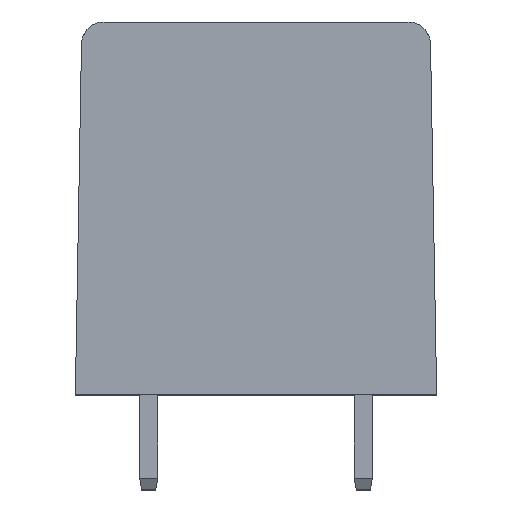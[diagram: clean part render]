
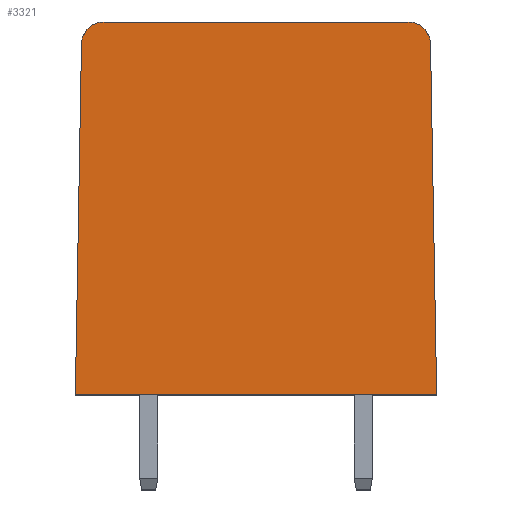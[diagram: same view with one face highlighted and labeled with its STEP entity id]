
A CAD part, top view. The second image highlights one B-rep face of the part: STEP entity #3321.
In plain terms, the highlighted planar face has unit normal (0, 0, 1).
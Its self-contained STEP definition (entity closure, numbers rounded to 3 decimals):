
#459 = FACE_OUTER_BOUND ( 'NONE', #3322, .T. ) ;
#500 = DIRECTION ( 'NONE',  ( 0.017, 1., 0. ) ) ;
#501 = VECTOR ( 'NONE', #500, 1000. ) ;
#502 = CARTESIAN_POINT ( 'NONE',  ( -7.729, 15.517, -9.52 ) ) ;
#503 = LINE ( 'NONE', #502, #501 ) ;
#504 = CARTESIAN_POINT ( 'NONE',  ( -8., 0., -9.52 ) ) ;
#515 = CARTESIAN_POINT ( 'NONE',  ( 8., 0., -9.52 ) ) ;
#516 = DIRECTION ( 'NONE',  ( 1., 0., 0. ) ) ;
#517 = VECTOR ( 'NONE', #516, 1000. ) ;
#518 = CARTESIAN_POINT ( 'NONE',  ( 0., 0., -9.52 ) ) ;
#519 = LINE ( 'NONE', #518, #517 ) ;
#520 = DIRECTION ( 'NONE',  ( 0., 1., 0. ) ) ;
#521 = DIRECTION ( 'NONE',  ( 0., 0., -1. ) ) ;
#522 = CARTESIAN_POINT ( 'NONE',  ( -8.096, 0., -9.52 ) ) ;
#523 = AXIS2_PLACEMENT_3D ( 'NONE', #522, #521, #520 ) ;
#524 = PLANE ( 'NONE',  #523 ) ;
#610 = DIRECTION ( 'NONE',  ( 0.017, -1., 0. ) ) ;
#611 = VECTOR ( 'NONE', #610, 1000. ) ;
#612 = CARTESIAN_POINT ( 'NONE',  ( 7.865, 7.759, -9.52 ) ) ;
#613 = LINE ( 'NONE', #612, #611 ) ;
#2686 = EDGE_CURVE ( 'NONE', #2703, #2687, #7373, .T. ) ;
#2687 = VERTEX_POINT ( 'NONE', #7369 ) ;
#2701 = EDGE_CURVE ( 'NONE', #2702, #2703, #7345, .T. ) ;
#2702 = VERTEX_POINT ( 'NONE', #7341 ) ;
#2703 = VERTEX_POINT ( 'NONE', #7340 ) ;
#2807 = EDGE_CURVE ( 'NONE', #2687, #2808, #7521, .T. ) ;
#2808 = VERTEX_POINT ( 'NONE', #7516 ) ;
#3321 = ADVANCED_FACE ( 'NONE', ( #459 ), #524, .F. ) ;
#3322 = EDGE_LOOP ( 'NONE', ( #3323, #3324, #3325, #3388, #3390, #3391 ) ) ;
#3323 = ORIENTED_EDGE ( 'NONE', *, *, #2701, .F. ) ;
#3324 = ORIENTED_EDGE ( 'NONE', *, *, #3335, .F. ) ;
#3325 = ORIENTED_EDGE ( 'NONE', *, *, #3326, .T. ) ;
#3326 = EDGE_CURVE ( 'NONE', #3333, #3327, #519, .T. ) ;
#3327 = VERTEX_POINT ( 'NONE', #515 ) ;
#3333 = VERTEX_POINT ( 'NONE', #504 ) ;
#3335 = EDGE_CURVE ( 'NONE', #3333, #2702, #503, .T. ) ;
#3388 = ORIENTED_EDGE ( 'NONE', *, *, #3389, .F. ) ;
#3389 = EDGE_CURVE ( 'NONE', #2808, #3327, #613, .T. ) ;
#3390 = ORIENTED_EDGE ( 'NONE', *, *, #2807, .F. ) ;
#3391 = ORIENTED_EDGE ( 'NONE', *, *, #2686, .F. ) ;
#7340 = CARTESIAN_POINT ( 'NONE',  ( -6.729, 16.5, -9.52 ) ) ;
#7341 = CARTESIAN_POINT ( 'NONE',  ( -7.729, 15.517, -9.52 ) ) ;
#7342 = DIRECTION ( 'NONE',  ( 1., 0., 0. ) ) ;
#7343 = DIRECTION ( 'NONE',  ( 0., 0., -1. ) ) ;
#7344 = AXIS2_PLACEMENT_3D ( 'NONE', #7350, #7343, #7342 ) ;
#7345 = CIRCLE ( 'NONE', #7344, 1. ) ;
#7350 = CARTESIAN_POINT ( 'NONE',  ( -6.729, 15.5, -9.52 ) ) ;
#7369 = CARTESIAN_POINT ( 'NONE',  ( 6.729, 16.5, -9.52 ) ) ;
#7370 = DIRECTION ( 'NONE',  ( 1., 0., 0. ) ) ;
#7371 = VECTOR ( 'NONE', #7370, 1000. ) ;
#7372 = CARTESIAN_POINT ( 'NONE',  ( 0., 16.5, -9.52 ) ) ;
#7373 = LINE ( 'NONE', #7372, #7371 ) ;
#7516 = CARTESIAN_POINT ( 'NONE',  ( 7.729, 15.517, -9.52 ) ) ;
#7517 = DIRECTION ( 'NONE',  ( 1., 0., 0. ) ) ;
#7518 = DIRECTION ( 'NONE',  ( 0., 0., -1. ) ) ;
#7519 = CARTESIAN_POINT ( 'NONE',  ( 6.729, 15.5, -9.52 ) ) ;
#7520 = AXIS2_PLACEMENT_3D ( 'NONE', #7519, #7518, #7517 ) ;
#7521 = CIRCLE ( 'NONE', #7520, 1. ) ;
